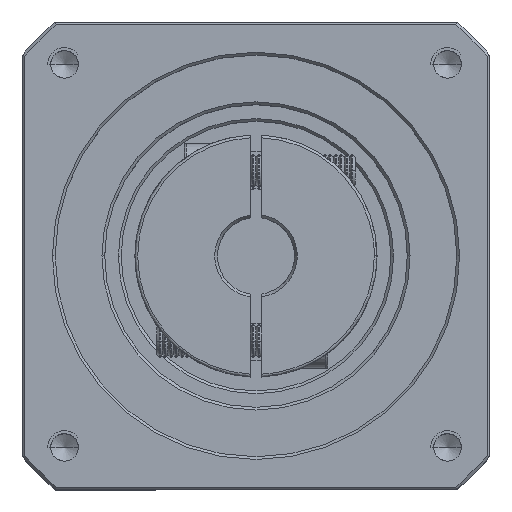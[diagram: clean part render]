
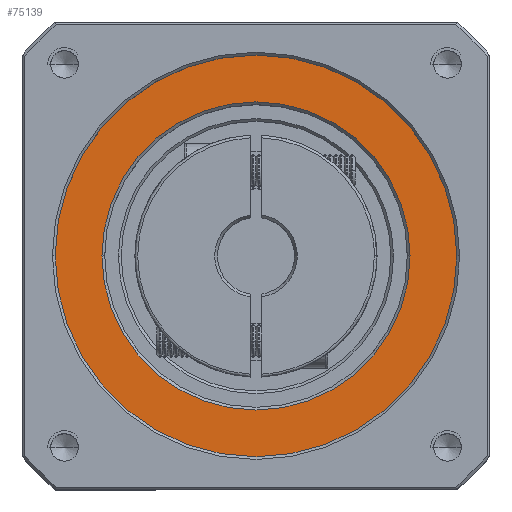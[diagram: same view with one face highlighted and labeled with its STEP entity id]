
A CAD part, top view. The second image highlights one B-rep face of the part: STEP entity #75139.
In plain terms, the highlighted planar face has unit normal (0, 0, 1).
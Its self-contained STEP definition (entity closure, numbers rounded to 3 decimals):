
#399 = CARTESIAN_POINT ( 'NONE',  ( -67.807, 41.931, 45.967 ) ) ;
#652 = AXIS2_PLACEMENT_3D ( 'NONE', #9963, #78709, #19852 ) ;
#1475 = DIRECTION ( 'NONE',  ( 0., 0., -1. ) ) ;
#3710 = ORIENTED_EDGE ( 'NONE', *, *, #126612, .T. ) ;
#5249 = CARTESIAN_POINT ( 'NONE',  ( -132.307, 41.931, 45.967 ) ) ;
#9158 = VERTEX_POINT ( 'NONE', #399 ) ;
#9963 = CARTESIAN_POINT ( 'NONE',  ( -95.807, 41.931, 45.967 ) ) ;
#13535 = EDGE_CURVE ( 'NONE', #14402, #15130, #89931, .T. ) ;
#14402 = VERTEX_POINT ( 'NONE', #110209 ) ;
#15130 = VERTEX_POINT ( 'NONE', #5249 ) ;
#19852 = DIRECTION ( 'NONE',  ( 1., 0., 0. ) ) ;
#20988 = ORIENTED_EDGE ( 'NONE', *, *, #13535, .T. ) ;
#21737 = CARTESIAN_POINT ( 'NONE',  ( -95.807, 41.931, 45.967 ) ) ;
#27977 = CIRCLE ( 'NONE', #58267, 28. ) ;
#29784 = DIRECTION ( 'NONE',  ( 0., 0., -1. ) ) ;
#30316 = ORIENTED_EDGE ( 'NONE', *, *, #103354, .T. ) ;
#31624 = DIRECTION ( 'NONE',  ( 1., 0., 0. ) ) ;
#31788 = EDGE_LOOP ( 'NONE', ( #30316, #121947 ) ) ;
#34101 = AXIS2_PLACEMENT_3D ( 'NONE', #114926, #56081, #124866 ) ;
#47616 = CIRCLE ( 'NONE', #34101, 36.5 ) ;
#53366 = EDGE_LOOP ( 'NONE', ( #20988, #3710 ) ) ;
#56081 = DIRECTION ( 'NONE',  ( 0., 0., 1. ) ) ;
#58267 = AXIS2_PLACEMENT_3D ( 'NONE', #60265, #1475, #70232 ) ;
#60265 = CARTESIAN_POINT ( 'NONE',  ( -95.807, 41.931, 45.967 ) ) ;
#70232 = DIRECTION ( 'NONE',  ( 1., 0., 0. ) ) ;
#75139 = ADVANCED_FACE ( 'NONE', ( #76857, #106015 ), #109768, .T. ) ;
#76857 = FACE_OUTER_BOUND ( 'NONE', #53366, .T. ) ;
#78709 = DIRECTION ( 'NONE',  ( 0., 0., 1. ) ) ;
#88236 = CARTESIAN_POINT ( 'NONE',  ( -123.807, 41.931, 45.967 ) ) ;
#88644 = CARTESIAN_POINT ( 'NONE',  ( -95.807, 41.931, 45.967 ) ) ;
#89931 = CIRCLE ( 'NONE', #652, 36.5 ) ;
#90488 = DIRECTION ( 'NONE',  ( 0., 0., 1. ) ) ;
#95559 = AXIS2_PLACEMENT_3D ( 'NONE', #88644, #29784, #98532 ) ;
#98532 = DIRECTION ( 'NONE',  ( 1., 0., 0. ) ) ;
#103354 = EDGE_CURVE ( 'NONE', #9158, #116616, #27977, .T. ) ;
#106015 = FACE_BOUND ( 'NONE', #31788, .T. ) ;
#109768 = PLANE ( 'NONE',  #117837 ) ;
#110209 = CARTESIAN_POINT ( 'NONE',  ( -59.307, 41.931, 45.967 ) ) ;
#111378 = EDGE_CURVE ( 'NONE', #116616, #9158, #114635, .T. ) ;
#114635 = CIRCLE ( 'NONE', #95559, 28. ) ;
#114926 = CARTESIAN_POINT ( 'NONE',  ( -95.807, 41.931, 45.967 ) ) ;
#116616 = VERTEX_POINT ( 'NONE', #88236 ) ;
#117837 = AXIS2_PLACEMENT_3D ( 'NONE', #21737, #90488, #31624 ) ;
#121947 = ORIENTED_EDGE ( 'NONE', *, *, #111378, .T. ) ;
#124866 = DIRECTION ( 'NONE',  ( 1., 0., 0. ) ) ;
#126612 = EDGE_CURVE ( 'NONE', #15130, #14402, #47616, .T. ) ;
